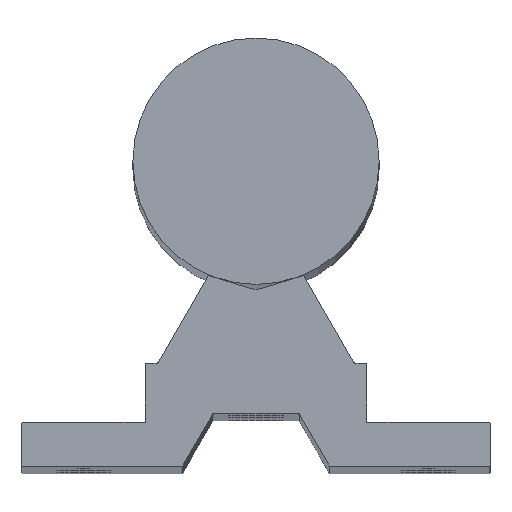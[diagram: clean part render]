
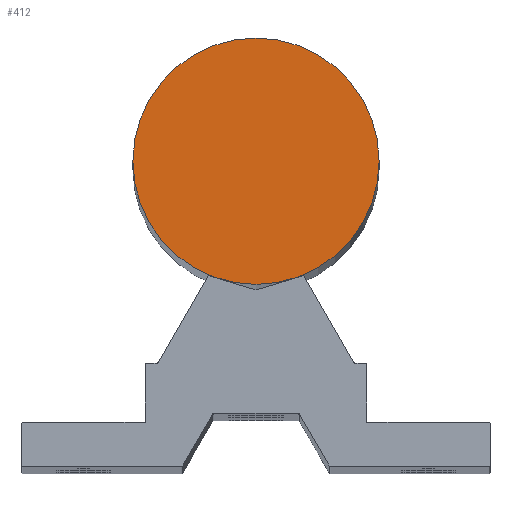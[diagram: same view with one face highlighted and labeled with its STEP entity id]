
A CAD part, top view. The second image highlights one B-rep face of the part: STEP entity #412.
In plain terms, the highlighted planar face has unit normal (0, 0, 1).
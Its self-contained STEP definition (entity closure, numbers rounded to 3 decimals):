
#182 = CARTESIAN_POINT ( 'NONE',  ( 0., 0., 425. ) ) ;
#398 = CIRCLE ( 'NONE', #907, 25. ) ;
#410 = VERTEX_POINT ( 'NONE', #671 ) ;
#411 = DIRECTION ( 'NONE',  ( 1., 0., 0. ) ) ;
#412 = ADVANCED_FACE ( 'NONE', ( #515 ), #1040, .T. ) ;
#515 = FACE_OUTER_BOUND ( 'NONE', #1345, .T. ) ;
#671 = CARTESIAN_POINT ( 'NONE',  ( 25., 0., 425. ) ) ;
#802 = ORIENTED_EDGE ( 'NONE', *, *, #2209, .T. ) ;
#843 = VERTEX_POINT ( 'NONE', #2191 ) ;
#889 = DIRECTION ( 'NONE',  ( 0., 0., 1. ) ) ;
#907 = AXIS2_PLACEMENT_3D ( 'NONE', #936, #1273, #411 ) ;
#936 = CARTESIAN_POINT ( 'NONE',  ( 0., 0., 425. ) ) ;
#1040 = PLANE ( 'NONE',  #2015 ) ;
#1077 = ORIENTED_EDGE ( 'NONE', *, *, #1164, .T. ) ;
#1164 = EDGE_CURVE ( 'NONE', #843, #410, #1754, .T. ) ;
#1273 = DIRECTION ( 'NONE',  ( 0., 0., 1. ) ) ;
#1345 = EDGE_LOOP ( 'NONE', ( #1077, #802 ) ) ;
#1564 = CARTESIAN_POINT ( 'NONE',  ( 0., 0., 425. ) ) ;
#1567 = DIRECTION ( 'NONE',  ( 1., 0., 0. ) ) ;
#1571 = AXIS2_PLACEMENT_3D ( 'NONE', #182, #889, #1567 ) ;
#1710 = DIRECTION ( 'NONE',  ( 0., 0., 1. ) ) ;
#1754 = CIRCLE ( 'NONE', #1571, 25. ) ;
#2015 = AXIS2_PLACEMENT_3D ( 'NONE', #1564, #1710, #2103 ) ;
#2103 = DIRECTION ( 'NONE',  ( 1., 0., 0. ) ) ;
#2191 = CARTESIAN_POINT ( 'NONE',  ( -25., 0., 425. ) ) ;
#2209 = EDGE_CURVE ( 'NONE', #410, #843, #398, .T. ) ;
